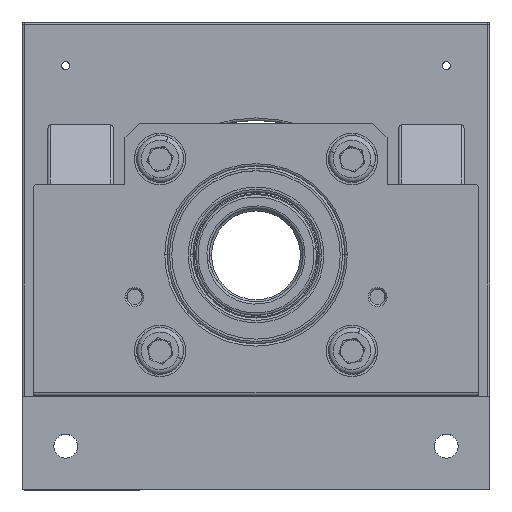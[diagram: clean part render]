
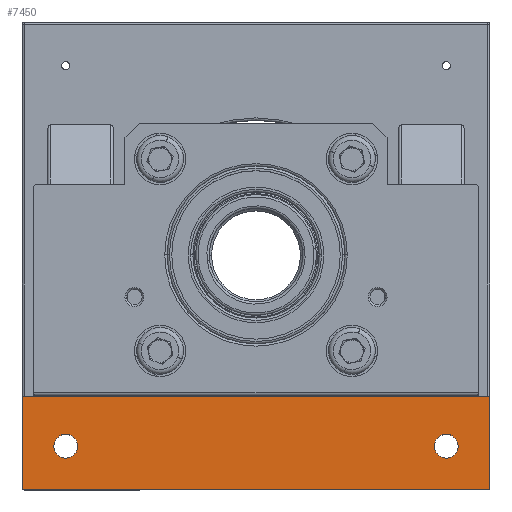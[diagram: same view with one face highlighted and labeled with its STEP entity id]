
A CAD part, top view. The second image highlights one B-rep face of the part: STEP entity #7450.
In plain terms, the highlighted planar face has unit normal (0, 0, 1).
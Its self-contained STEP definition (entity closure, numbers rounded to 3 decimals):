
#124 = LINE ( 'NONE', #1930, #9448 ) ;
#173 = CARTESIAN_POINT ( 'NONE',  ( -50., -50., -115. ) ) ;
#417 = CIRCLE ( 'NONE', #10147, 2.55 ) ;
#549 = CARTESIAN_POINT ( 'NONE',  ( -50., -30., -115. ) ) ;
#581 = PLANE ( 'NONE',  #4176 ) ;
#633 = EDGE_CURVE ( 'NONE', #5206, #4773, #2964, .T. ) ;
#650 = VERTEX_POINT ( 'NONE', #8980 ) ;
#667 = CIRCLE ( 'NONE', #8759, 0.5 ) ;
#1084 = ORIENTED_EDGE ( 'NONE', *, *, #9008, .T. ) ;
#1189 = LINE ( 'NONE', #1392, #7252 ) ;
#1392 = CARTESIAN_POINT ( 'NONE',  ( -50., -30., -115. ) ) ;
#1400 = LINE ( 'NONE', #549, #5919 ) ;
#1462 = DIRECTION ( 'NONE',  ( 0., 0., 1. ) ) ;
#1696 = EDGE_CURVE ( 'NONE', #10164, #10403, #667, .T. ) ;
#1930 = CARTESIAN_POINT ( 'NONE',  ( 50., -30., -115. ) ) ;
#1940 = CARTESIAN_POINT ( 'NONE',  ( 40.659, -40.659, -115. ) ) ;
#1974 = DIRECTION ( 'NONE',  ( 0., 0., 1. ) ) ;
#2314 = EDGE_LOOP ( 'NONE', ( #3888, #6205 ) ) ;
#2399 = DIRECTION ( 'NONE',  ( -1., 0., 0. ) ) ;
#2403 = FACE_BOUND ( 'NONE', #2314, .T. ) ;
#2671 = CARTESIAN_POINT ( 'NONE',  ( 49.5, -50., -115. ) ) ;
#2673 = CARTESIAN_POINT ( 'NONE',  ( 50., -30., -115. ) ) ;
#2674 = FACE_OUTER_BOUND ( 'NONE', #3032, .T. ) ;
#2747 = CARTESIAN_POINT ( 'NONE',  ( -40.659, -40.659, -115. ) ) ;
#2844 = DIRECTION ( 'NONE',  ( -1., 0., 0. ) ) ;
#2912 = CARTESIAN_POINT ( 'NONE',  ( -49.5, -50., -115. ) ) ;
#2964 = CIRCLE ( 'NONE', #5355, 2.55 ) ;
#3032 = EDGE_LOOP ( 'NONE', ( #9770, #4594, #1084, #7248, #7846, #10842 ) ) ;
#3214 = ORIENTED_EDGE ( 'NONE', *, *, #8455, .F. ) ;
#3327 = EDGE_CURVE ( 'NONE', #4217, #8454, #1189, .T. ) ;
#3355 = CIRCLE ( 'NONE', #10195, 2.55 ) ;
#3657 = DIRECTION ( 'NONE',  ( -1., 0., 0. ) ) ;
#3770 = CIRCLE ( 'NONE', #8410, 2.55 ) ;
#3869 = EDGE_LOOP ( 'NONE', ( #10024, #3214 ) ) ;
#3888 = ORIENTED_EDGE ( 'NONE', *, *, #9530, .F. ) ;
#4062 = LINE ( 'NONE', #173, #6194 ) ;
#4117 = DIRECTION ( 'NONE',  ( 1., 0., 0. ) ) ;
#4143 = CARTESIAN_POINT ( 'NONE',  ( -50., -49.5, -115. ) ) ;
#4175 = CARTESIAN_POINT ( 'NONE',  ( 43.209, -40.659, -115. ) ) ;
#4176 = AXIS2_PLACEMENT_3D ( 'NONE', #10464, #7783, #2399 ) ;
#4217 = VERTEX_POINT ( 'NONE', #11575 ) ;
#4594 = ORIENTED_EDGE ( 'NONE', *, *, #9525, .T. ) ;
#4650 = AXIS2_PLACEMENT_3D ( 'NONE', #6853, #1462, #7758 ) ;
#4763 = DIRECTION ( 'NONE',  ( 0., 0., 1. ) ) ;
#4773 = VERTEX_POINT ( 'NONE', #10861 ) ;
#4795 = FACE_BOUND ( 'NONE', #3869, .T. ) ;
#5063 = DIRECTION ( 'NONE',  ( 0., 1., 0. ) ) ;
#5206 = VERTEX_POINT ( 'NONE', #9611 ) ;
#5355 = AXIS2_PLACEMENT_3D ( 'NONE', #7716, #7438, #7288 ) ;
#5919 = VECTOR ( 'NONE', #5063, 1000. ) ;
#6194 = VECTOR ( 'NONE', #9197, 1000. ) ;
#6203 = CIRCLE ( 'NONE', #4650, 0.5 ) ;
#6205 = ORIENTED_EDGE ( 'NONE', *, *, #10348, .F. ) ;
#6853 = CARTESIAN_POINT ( 'NONE',  ( 49.5, -49.5, -115. ) ) ;
#7248 = ORIENTED_EDGE ( 'NONE', *, *, #8476, .T. ) ;
#7252 = VECTOR ( 'NONE', #4117, 1000. ) ;
#7288 = DIRECTION ( 'NONE',  ( -1., 0., 0. ) ) ;
#7354 = CARTESIAN_POINT ( 'NONE',  ( -49.5, -49.5, -115. ) ) ;
#7438 = DIRECTION ( 'NONE',  ( 0., 0., 1. ) ) ;
#7450 = ADVANCED_FACE ( 'NONE', ( #2674, #2403, #4795 ), #581, .F. ) ;
#7716 = CARTESIAN_POINT ( 'NONE',  ( -40.659, -40.659, -115. ) ) ;
#7758 = DIRECTION ( 'NONE',  ( -1., 0., 0. ) ) ;
#7783 = DIRECTION ( 'NONE',  ( 0., 0., -1. ) ) ;
#7846 = ORIENTED_EDGE ( 'NONE', *, *, #3327, .F. ) ;
#8205 = DIRECTION ( 'NONE',  ( 0., 1., 0. ) ) ;
#8208 = VERTEX_POINT ( 'NONE', #4175 ) ;
#8214 = DIRECTION ( 'NONE',  ( 0., 0., 1. ) ) ;
#8245 = DIRECTION ( 'NONE',  ( -1., 0., 0. ) ) ;
#8274 = VERTEX_POINT ( 'NONE', #8816 ) ;
#8410 = AXIS2_PLACEMENT_3D ( 'NONE', #10159, #4763, #11044 ) ;
#8454 = VERTEX_POINT ( 'NONE', #2673 ) ;
#8455 = EDGE_CURVE ( 'NONE', #4773, #5206, #417, .T. ) ;
#8476 = EDGE_CURVE ( 'NONE', #650, #8454, #124, .T. ) ;
#8759 = AXIS2_PLACEMENT_3D ( 'NONE', #7354, #1974, #8245 ) ;
#8816 = CARTESIAN_POINT ( 'NONE',  ( 38.109, -40.659, -115. ) ) ;
#8980 = CARTESIAN_POINT ( 'NONE',  ( 50., -49.5, -115. ) ) ;
#9008 = EDGE_CURVE ( 'NONE', #9244, #650, #6203, .T. ) ;
#9020 = EDGE_CURVE ( 'NONE', #10164, #4217, #1400, .T. ) ;
#9046 = DIRECTION ( 'NONE',  ( 0., 0., 1. ) ) ;
#9197 = DIRECTION ( 'NONE',  ( 1., 0., 0. ) ) ;
#9244 = VERTEX_POINT ( 'NONE', #2671 ) ;
#9448 = VECTOR ( 'NONE', #8205, 1000. ) ;
#9525 = EDGE_CURVE ( 'NONE', #10403, #9244, #4062, .T. ) ;
#9530 = EDGE_CURVE ( 'NONE', #8274, #8208, #3770, .T. ) ;
#9611 = CARTESIAN_POINT ( 'NONE',  ( -43.209, -40.659, -115. ) ) ;
#9770 = ORIENTED_EDGE ( 'NONE', *, *, #1696, .T. ) ;
#10024 = ORIENTED_EDGE ( 'NONE', *, *, #633, .F. ) ;
#10147 = AXIS2_PLACEMENT_3D ( 'NONE', #2747, #9046, #3657 ) ;
#10159 = CARTESIAN_POINT ( 'NONE',  ( 40.659, -40.659, -115. ) ) ;
#10164 = VERTEX_POINT ( 'NONE', #4143 ) ;
#10195 = AXIS2_PLACEMENT_3D ( 'NONE', #1940, #8214, #2844 ) ;
#10348 = EDGE_CURVE ( 'NONE', #8208, #8274, #3355, .T. ) ;
#10403 = VERTEX_POINT ( 'NONE', #2912 ) ;
#10464 = CARTESIAN_POINT ( 'NONE',  ( -50., -30., -115. ) ) ;
#10842 = ORIENTED_EDGE ( 'NONE', *, *, #9020, .F. ) ;
#10861 = CARTESIAN_POINT ( 'NONE',  ( -38.109, -40.659, -115. ) ) ;
#11044 = DIRECTION ( 'NONE',  ( -1., 0., 0. ) ) ;
#11575 = CARTESIAN_POINT ( 'NONE',  ( -50., -30., -115. ) ) ;
